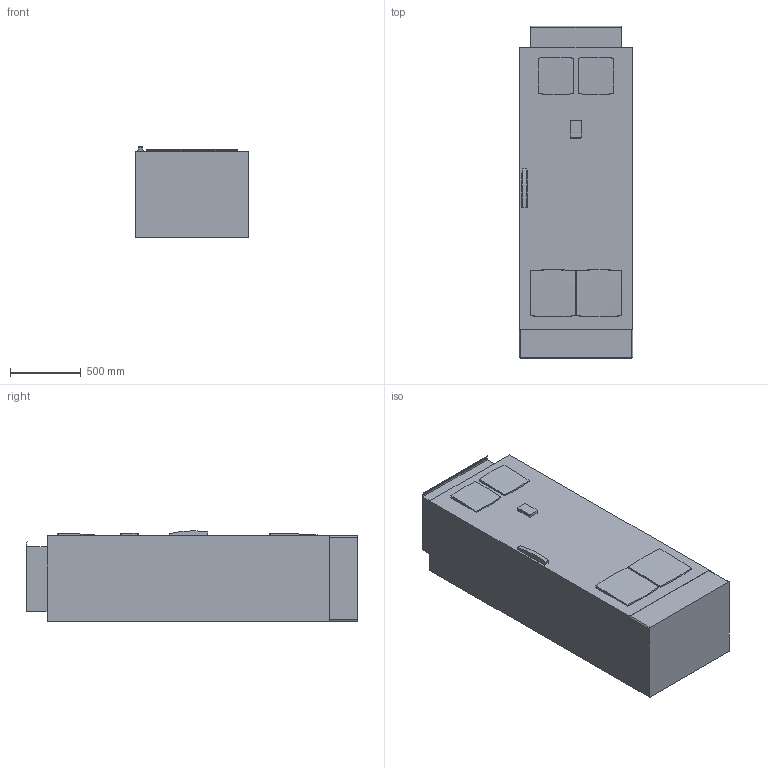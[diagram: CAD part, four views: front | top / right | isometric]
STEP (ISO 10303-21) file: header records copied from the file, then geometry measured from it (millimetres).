
FILE_DESCRIPTION(('STEP AP242'),'1');
FILE_NAME('atv660c35t4x1.stp','2019-11-20T08:18:21',('TraceParts'),('TraceParts S.A.'),'Spatial InterOp 3D',' ',' ');
FILE_SCHEMA(('AP242_MANAGED_MODEL_BASED_3D_ENGINEERING_MIM_LF {1 0 10303 442 1 1 4}'));
Length unit declared in the file: millimetre
Products named in the file (1): atv660c35t4x1_1
Bounding box: 805 x 2352.5 x 640.97 mm (x, y, z)
Volume: 1113834587 mm3; surface area: 8596624.8 mm2
Topology: 2 solids, 2 shells, 64 faces, 162 edges, 108 vertices
Faces by surface type: plane 40, cylinder 17, bspline 4, revolution 3
Entity records: 2217 total; most frequent: CARTESIAN_POINT 673, ORIENTED_EDGE 324, DIRECTION 291, EDGE_CURVE 162, VERTEX_POINT 108, LINE 104, VECTOR 104, AXIS2_PLACEMENT_3D 92
